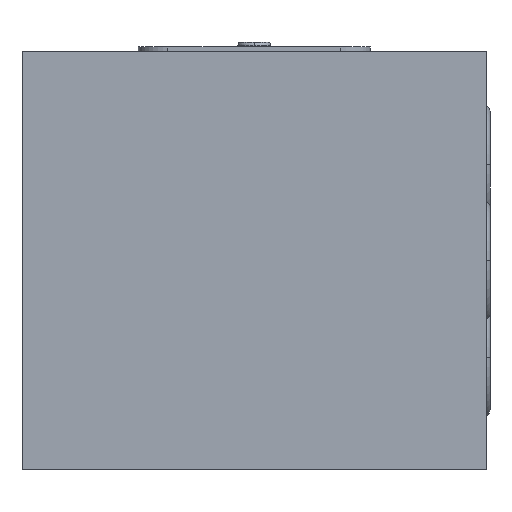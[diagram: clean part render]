
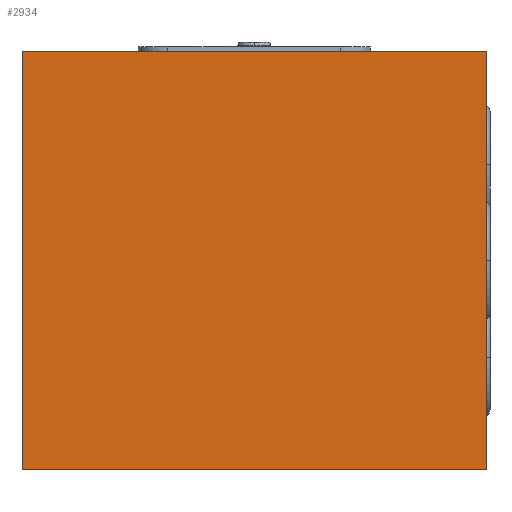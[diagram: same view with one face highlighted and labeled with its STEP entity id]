
A CAD part, left-side view. The second image highlights one B-rep face of the part: STEP entity #2934.
In plain terms, the highlighted planar face has unit normal (-1, 0, 0).
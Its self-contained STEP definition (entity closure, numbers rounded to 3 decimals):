
#56=DIRECTION('',(0.,0.,-1.));
#57=VECTOR('',#56,45.);
#58=CARTESIAN_POINT('',(0.,0.,0.));
#59=LINE('',#58,#57);
#63=DIRECTION('',(0.,1.,0.));
#64=VECTOR('',#63,50.);
#65=CARTESIAN_POINT('',(0.,0.,-45.));
#66=LINE('',#65,#64);
#70=DIRECTION('',(0.,0.,1.));
#71=VECTOR('',#70,45.);
#72=CARTESIAN_POINT('',(0.,50.,-45.));
#73=LINE('',#72,#71);
#77=DIRECTION('',(0.,-1.,0.));
#78=VECTOR('',#77,50.);
#79=CARTESIAN_POINT('',(0.,50.,0.));
#80=LINE('',#79,#78);
#2666=CARTESIAN_POINT('',(0.,0.,0.));
#2667=CARTESIAN_POINT('',(0.,0.,-45.));
#2668=VERTEX_POINT('',#2666);
#2669=VERTEX_POINT('',#2667);
#2670=CARTESIAN_POINT('',(0.,50.,-45.));
#2671=VERTEX_POINT('',#2670);
#2672=CARTESIAN_POINT('',(0.,50.,0.));
#2673=VERTEX_POINT('',#2672);
#2919=CARTESIAN_POINT('',(0.,0.,0.));
#2920=DIRECTION('',(1.,0.,0.));
#2921=DIRECTION('',(0.,0.,-1.));
#2922=AXIS2_PLACEMENT_3D('',#2919,#2920,#2921);
#2923=PLANE('',#2922);
#2925=ORIENTED_EDGE('',*,*,#2924,.T.);
#2927=ORIENTED_EDGE('',*,*,#2926,.T.);
#2929=ORIENTED_EDGE('',*,*,#2928,.T.);
#2931=ORIENTED_EDGE('',*,*,#2930,.T.);
#2932=EDGE_LOOP('',(#2925,#2927,#2929,#2931));
#2933=FACE_OUTER_BOUND('',#2932,.F.);
#2924=EDGE_CURVE('',#2668,#2669,#59,.T.);
#2926=EDGE_CURVE('',#2669,#2671,#66,.T.);
#2928=EDGE_CURVE('',#2671,#2673,#73,.T.);
#2930=EDGE_CURVE('',#2673,#2668,#80,.T.);
#2934=ADVANCED_FACE('',(#2933),#2923,.F.);
